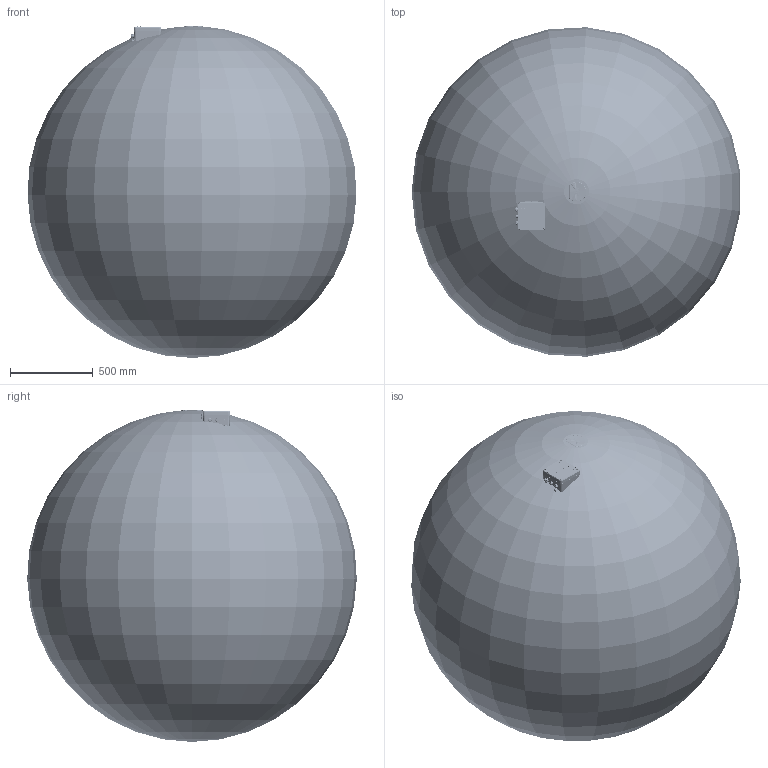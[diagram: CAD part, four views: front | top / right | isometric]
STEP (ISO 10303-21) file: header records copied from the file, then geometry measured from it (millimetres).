
FILE_DESCRIPTION(('STEP AP242'), '1');
FILE_NAME('ÑÃ-ÝÊÐ-Ð-650 DN100 c ÏÏÄ ñíèçó ââåðõ, êîðð ñïðàâà', '', ('UNSPECIFIED'), ('UNSPECIFIED'), 'C3D Converter', 'C3D Toolkit', '');
FILE_SCHEMA(('AP242_MANAGED_MODEL_BASED_3D_ENGINEERING_MIM_LF { 1 0 10303 442 1 1 4 }'));
Length unit declared in the file: millimetre
Bounding box: 1981.87 x 1985.23 x 2000.07 mm (x, y, z)
Volume: 4147575488.2 mm3; surface area: 14251619 mm2
Topology: 178 solids, 178 shells, 10025 faces, 25957 edges, 16847 vertices
Faces by surface type: plane 3522, extrusion 2892, cylinder 1995, cone 879, bspline 412, torus 294, sphere 31
Full cylindrical faces by diameter (mm): 1.5 x8, 1.95 x3, 2 x42, 2.2 x14, 2.3 x8, 2.459 x13, 2.5 x20, 2.791 x2, 3 x24, 3.1 x1, 3.2 x13, 3.242 x7, 3.3 x4, 3.45 x3, 3.459 x2, 3.688 x1, 4 x44, 4.134 x1, 4.3 x12, 4.5 x1, 4.917 x15, 5 x29, 5.2 x12, 5.5 x8, 6 x58, 6.2 x6, 6.5 x6, 6.6 x4, 6.75 x2, 7 x16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
Entity records: 527421 total; most frequent: CARTESIAN_POINT 221935, ORIENTED_EDGE 48874, DIRECTION 36498, EDGE_CURVE 24437, VERTEX_POINT 16759, VECTOR 14020, EDGE_LOOP 12432, AXIS2_PLACEMENT_3D 11239
